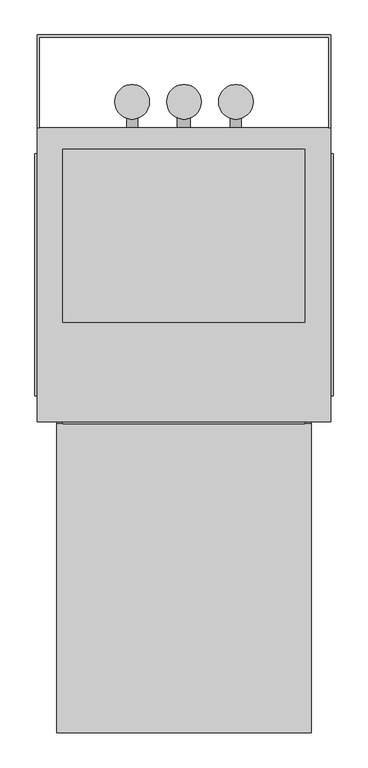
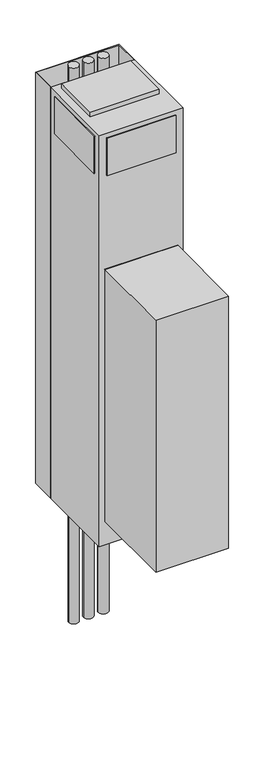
"""IFC4 building model written with IfcOpenShell, lengths in millimetres: proxy geometry, Exposed_Modular_Fan_Coil_Unit_-_42SHA_-_CARRIER_-_2-Pipe_Cool-EHeat_-_WithRisers_2022 : Size 03 - 277v/60Hz/1Ph - 4 Row 3.0kW."""

from ifc_helpers import new_model, si_unit, point, frame, frame_2d, origin, origin_with_axes, place, context, project, spatial, polyline, circle_curve, trimmed, segment, composite_curve, outline, extrude, source, transform, mapped, element, save


def mechanical_equipment_c428dfaa(model_context):
    return source(origin(), model_context, "Body", "SweptSolid", [
        extrude(outline(composite_curve([segment(trimmed(circle_curve(frame_2d((292.1, 282.575)), 25.4), [point((317.5, 282.575))], [point((266.7, 282.575))], False, "CARTESIAN"), True, "CONTINUOUS"), segment(trimmed(circle_curve(frame_2d((292.1, 282.575)), 25.4), [point((266.7, 282.575))], [point((317.5, 282.575))], False, "CARTESIAN"), True, "CONTINUOUS")], self_intersect=False)), frame((0.0, 0.0, -736.6), z_axis=(0.0, 0.0, 1.0), x_axis=(1.0, 0.0, 0.0)), (0.0, 0.0, 1.0), 3022.6),
        extrude(outline(composite_curve([segment(trimmed(circle_curve(frame_2d((368.3, 282.575)), 25.4), [point((393.7, 282.575))], [point((342.9, 282.575))], False, "CARTESIAN"), True, "CONTINUOUS"), segment(trimmed(circle_curve(frame_2d((368.3, 282.575)), 25.4), [point((342.9, 282.575))], [point((393.7, 282.575))], False, "CARTESIAN"), True, "CONTINUOUS")], self_intersect=False)), frame((0.0, 0.0, -736.6), z_axis=(0.0, 0.0, 1.0), x_axis=(1.0, 0.0, 0.0)), (0.0, 0.0, 1.0), 3022.6),
        extrude(outline(composite_curve([segment(trimmed(circle_curve(frame_2d((444.5, 282.575)), 25.4), [point((469.9, 282.575))], [point((419.1, 282.575))], False, "CARTESIAN"), True, "CONTINUOUS"), segment(trimmed(circle_curve(frame_2d((444.5, 282.575)), 25.4), [point((419.1, 282.575))], [point((469.9, 282.575))], False, "CARTESIAN"), True, "CONTINUOUS")], self_intersect=False)), frame((0.0, 0.0, -736.6), z_axis=(0.0, 0.0, 1.0), x_axis=(1.0, 0.0, 0.0)), (0.0, 0.0, 1.0), 3022.6),
        extrude(outline(polyline([(555.625, -190.5), (555.625, -644.525), (180.975, -644.525), (180.975, -190.5), (555.625, -190.5)])), frame((0.0, 0.0, 127.0), z_axis=(0.0, 0.0, 1.0), x_axis=(1.0, 0.0, 0.0)), (0.0, 0.0, 1.0), 1371.6),
        extrude(outline(polyline([(152.4, 381.0), (584.2, 381.0), (584.2, 244.475), (581.025, 244.475), (581.025, 377.825), (155.575, 377.825), (155.575, 244.475), (152.4, 244.475), (152.4, 381.0)])), origin_with_axes(), (0.0, 0.0, 1.0), 2235.2),
        extrude(outline(composite_curve([segment(trimmed(circle_curve(frame_2d((990.6, 444.5)), 7.9375), [point((990.6, 452.4375))], [point((990.6, 436.5625))], False, "CARTESIAN"), True, "CONTINUOUS"), segment(trimmed(circle_curve(frame_2d((990.6, 444.5)), 7.9375), [point((990.6, 436.5625))], [point((990.6, 452.4375))], False, "CARTESIAN"), True, "CONTINUOUS")], self_intersect=False)), frame((0.0, 244.475, 0.0), z_axis=(0.0, 1.0, 0.0), x_axis=(0.0, 0.0, 1.0)), (0.0, 0.0, 1.0), 25.4),
        extrude(outline(composite_curve([segment(trimmed(circle_curve(frame_2d((990.6, 292.1)), 7.9375), [point((990.6, 300.0375))], [point((990.6, 284.1625))], False, "CARTESIAN"), True, "CONTINUOUS"), segment(trimmed(circle_curve(frame_2d((990.6, 292.1)), 7.9375), [point((990.6, 284.1625))], [point((990.6, 300.0375))], False, "CARTESIAN"), True, "CONTINUOUS")], self_intersect=False)), frame((0.0, 244.475, 0.0), z_axis=(0.0, 1.0, 0.0), x_axis=(0.0, 0.0, 1.0)), (0.0, 0.0, 1.0), 25.4),
        extrude(outline(composite_curve([segment(trimmed(circle_curve(frame_2d((127.0, 368.3)), 9.525), [point((127.0, 377.825))], [point((127.0, 358.775))], False, "CARTESIAN"), True, "CONTINUOUS"), segment(trimmed(circle_curve(frame_2d((127.0, 368.3)), 9.525), [point((127.0, 358.775))], [point((127.0, 377.825))], False, "CARTESIAN"), True, "CONTINUOUS")], self_intersect=False)), frame((0.0, 244.475, 0.0), z_axis=(0.0, 1.0, 0.0), x_axis=(0.0, 0.0, 1.0)), (0.0, 0.0, 1.0), 25.4),
        extrude(outline(polyline([(555.625, -190.5), (180.975, -190.5), (180.975, -187.325), (555.625, -187.325), (555.625, -190.5)])), frame((0.0, 0.0, 127.0), z_axis=(0.0, 0.0, 1.0), x_axis=(1.0, 0.0, 0.0)), (0.0, 0.0, 1.0), 1371.6),
        extrude(outline(polyline([(587.375, 206.375), (587.375, -149.225), (584.2, -149.225), (584.2, 206.375), (587.375, 206.375)])), frame((0.0, 0.0, 2006.6), z_axis=(0.0, 0.0, 1.0), x_axis=(1.0, 0.0, 0.0)), (0.0, 0.0, 1.0), 203.2),
        extrude(outline(polyline([(149.225, -149.225), (149.225, 206.375), (152.4, 206.375), (152.4, -149.225), (149.225, -149.225)])), frame((0.0, 0.0, 2006.6), z_axis=(0.0, 0.0, 1.0), x_axis=(1.0, 0.0, 0.0)), (0.0, 0.0, 1.0), 203.2),
        extrude(outline(polyline([(546.1, -190.5), (190.5, -190.5), (190.5, -187.325), (546.1, -187.325), (546.1, -190.5)])), frame((0.0, 0.0, 2006.6), z_axis=(0.0, 0.0, 1.0), x_axis=(1.0, 0.0, 0.0)), (0.0, 0.0, 1.0), 203.2),
        extrude(outline(polyline([(546.1, 212.725), (546.1, -41.275), (190.5, -41.275), (190.5, 212.725), (546.1, 212.725)])), frame((0.0, 0.0, 2235.2), z_axis=(0.0, 0.0, 1.0), x_axis=(1.0, 0.0, 0.0)), (0.0, 0.0, 1.0), 25.4),
        extrude(outline(polyline([(584.2, 244.475), (584.2, -187.325), (152.4, -187.325), (152.4, 244.475), (584.2, 244.475)])), origin_with_axes(), (0.0, 0.0, 1.0), 2235.2),
    ])


if __name__ == "__main__":
    model = new_model("IFC4")
    model_context = context("Model", 3, world=origin())
    ifc_project = project(units=[si_unit("LENGTHUNIT", "METRE", prefix="MILLI")], contexts=[model_context])
    site = spatial("IfcSite", under=ifc_project)
    building = spatial("IfcBuilding", under=site)
    placement = place(None, origin())
    mechanical_equipment_shape = mechanical_equipment_c428dfaa(model_context)
    element("IfcBuildingElementProxy", 1, Name="Exposed_Modular_Fan_Coil_Unit_-_42SHA_-_CARRIER_-_2-Pipe_Cool-EHeat_-_WithRisers_2022 : Size 03 - 277v/60Hz/1Ph - 4 Row 3.0kW", ObjectType="Exposed_Modular_Fan_Coil_Unit_-_42SHA_-_CARRIER_-_2-Pipe_Cool-EHeat_-_WithRisers_2022 : Size 03 - 277v/60Hz/1Ph - 4 Row 3.0kW", at=placement, inside=building, context=model_context, shape_type="MappedRepresentation", body=[
        mapped(mechanical_equipment_shape, transform((0.0, 0.0, 0.0), x_axis=(1.0, 0.0, 0.0), y_axis=(0.0, 1.0, 0.0), z_axis=(0.0, 0.0, 1.0))),
    ])
    save(model, "model.ifc")
